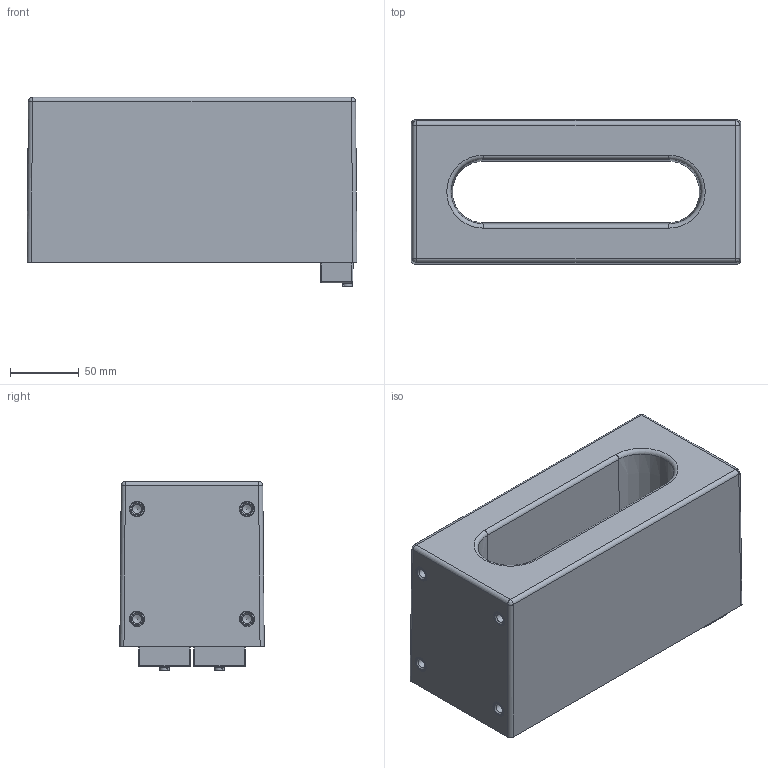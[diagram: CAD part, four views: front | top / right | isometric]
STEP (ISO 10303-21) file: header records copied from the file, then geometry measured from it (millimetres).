
FILE_DESCRIPTION(('STEP AP203'), '1');
FILE_NAME('ﾒﾘﾏ-ﾍﾒﾇ-0,66-31 ﾓ2, ﾒ2', '2025-04-11T09:15:50', ('UNSPECIFIED'), ('UNSPECIFIED'), 'ASCON STEP Converter 1.3', 'ASCON Math Kernel', '');
FILE_SCHEMA(('CONFIG_CONTROL_DESIGN'));
Length unit declared in the file: millimetre
Assembly tree (24 placements, depth 2):
  (unnamed)
    (unnamed)
    (unnamed)
    (unnamed)  x8
    (unnamed)  x2
    (unnamed)  x4
    (unnamed)  x2
    (unnamed)  x2
    (unnamed)  x4
Bounding box: 240 x 105 x 137.6 mm (x, y, z)
Volume: 2042686.2 mm3; surface area: 480142.3 mm2
Topology: 24 solids, 24 shells, 450 faces, 990 edges, 594 vertices
Faces by surface type: plane 186, cylinder 134, cone 76, bspline 28, torus 26
Full cylindrical faces by diameter (mm): 3.244 x2, 4 x2, 4.5 x2, 4.8 x4, 4.92 x4, 6 x4, 6.647 x8, 7 x2, 7.1 x4, 8 x2, 10 x12, 11.1 x16, 12 x4, 14 x8
Entity records: 11501 total; most frequent: CARTESIAN_POINT 4210, DIRECTION 1002, ORIENTED_EDGE 876, EDGE_CURVE 438, AXIS2_PLACEMENT_3D 391, EDGE_LOOP 300, VERTEX_POINT 292, COLOUR_RGB 231
